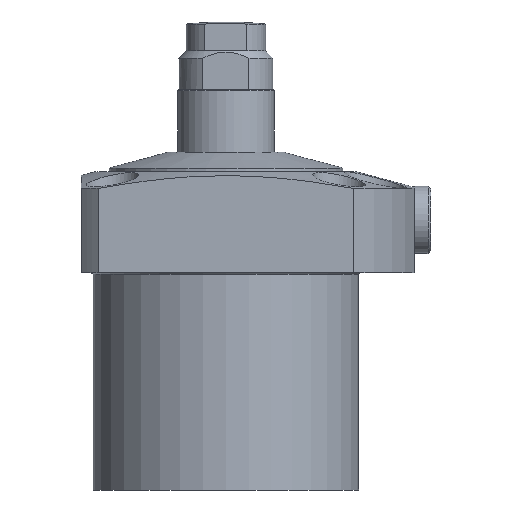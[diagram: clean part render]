
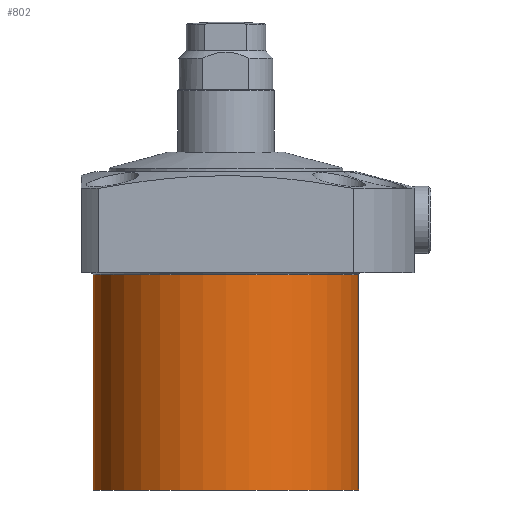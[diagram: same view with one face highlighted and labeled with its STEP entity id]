
A CAD part, front view. The second image highlights one B-rep face of the part: STEP entity #802.
In plain terms, the highlighted cylindrical face has radius 27.5 mm (diameter 55 mm), a partial arc.
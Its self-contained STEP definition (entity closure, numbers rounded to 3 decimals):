
#586=CYLINDRICAL_SURFACE('',#2599,27.5);
#802=ADVANCED_FACE('',(#937),#586,.T.);
#937=FACE_OUTER_BOUND('',#1051,.T.);
#1051=EDGE_LOOP('',(#1695,#1696,#1697,#1698));
#1220=LINE('',#3923,#1344);
#1221=LINE('',#3925,#1345);
#1344=VECTOR('',#3090,1.);
#1345=VECTOR('',#3093,1.);
#1695=ORIENTED_EDGE('',*,*,#2259,.F.);
#1696=ORIENTED_EDGE('',*,*,#2273,.T.);
#1697=ORIENTED_EDGE('',*,*,#2261,.T.);
#1698=ORIENTED_EDGE('',*,*,#2233,.T.);
#2021=VERTEX_POINT('',#3785);
#2022=VERTEX_POINT('',#3786);
#2039=VERTEX_POINT('',#3921);
#2040=VERTEX_POINT('',#3922);
#2233=EDGE_CURVE('',#2021,#2022,#2385,.T.);
#2259=EDGE_CURVE('',#2040,#2022,#1220,.T.);
#2261=EDGE_CURVE('',#2039,#2021,#1221,.T.);
#2273=EDGE_CURVE('',#2040,#2039,#2402,.T.);
#2385=CIRCLE('',#2572,27.5);
#2402=CIRCLE('',#2597,27.5);
#2572=AXIS2_PLACEMENT_3D('',#3784,#3052,#3053);
#2597=AXIS2_PLACEMENT_3D('',#3951,#3118,#3119);
#2599=AXIS2_PLACEMENT_3D('',#3953,#3122,#3123);
#3052=DIRECTION('',(0.,0.,-1.));
#3053=DIRECTION('',(-1.,0.,0.));
#3090=DIRECTION('',(0.,0.,1.));
#3093=DIRECTION('',(0.,0.,1.));
#3118=DIRECTION('',(0.,0.,1.));
#3119=DIRECTION('',(1.,0.,0.));
#3122=DIRECTION('',(0.,0.,1.));
#3123=DIRECTION('',(-1.,0.,0.));
#3784=CARTESIAN_POINT('',(0.,0.,-0.4));
#3785=CARTESIAN_POINT('',(27.5,0.,-0.4));
#3786=CARTESIAN_POINT('',(-27.5,0.,-0.4));
#3921=CARTESIAN_POINT('',(27.5,0.,-45.));
#3922=CARTESIAN_POINT('',(-27.5,0.,-45.));
#3923=CARTESIAN_POINT('',(-27.5,0.,35.));
#3925=CARTESIAN_POINT('',(27.5,0.,35.));
#3951=CARTESIAN_POINT('',(0.,0.,-45.));
#3953=CARTESIAN_POINT('',(0.,0.,35.));
